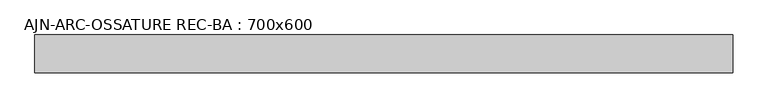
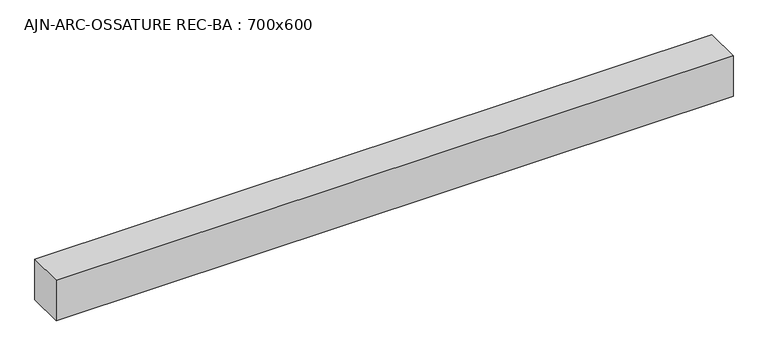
"""IFC4 building model written with IfcOpenShell, lengths in millimetres: beam geometry, AJN-ARC-OSSATURE REC-BA : 700x600."""

from ifc_helpers import new_model, si_unit, frame, origin, place, context, project, spatial, polyline, outline, extrude, source, transform, mapped, element, save


def ajn_arc_ossature_rec_ba_700x600_09f7f53f(model_context):
    return source(origin(), model_context, "Body", "SweptSolid", [
        extrude(outline(polyline([(5537.3, 300.0), (5537.3, -300.0), (-5537.3, -300.0), (-5537.3, 300.0), (5537.3, 300.0)])), frame((0.0, 0.0, -350.0), z_axis=(0.0, 0.0, 1.0), x_axis=(1.0, 0.0, 0.0)), (0.0, 0.0, 1.0), 700.0),
    ])


if __name__ == "__main__":
    model = new_model("IFC4")
    model_context = context("Model", 3, world=origin())
    ifc_project = project(units=[si_unit("LENGTHUNIT", "METRE", prefix="MILLI")], contexts=[model_context])
    site = spatial("IfcSite", under=ifc_project)
    building = spatial("IfcBuilding", under=site)
    placement = place(None, origin())
    ajn_arc_ossature_rec_ba_700x600_shape = ajn_arc_ossature_rec_ba_700x600_09f7f53f(model_context)
    element("IfcBeam", 1, ObjectType="AJN-ARC-OSSATURE REC-BA : 700x600", at=placement, inside=building, context=model_context, shape_type="MappedRepresentation", body=[
        mapped(ajn_arc_ossature_rec_ba_700x600_shape, transform((0.0, 0.0, 0.0), x_axis=(1.0, 0.0, 0.0), y_axis=(0.0, 1.0, 0.0), z_axis=(0.0, 0.0, 1.0))),
    ])
    save(model, "model.ifc")
